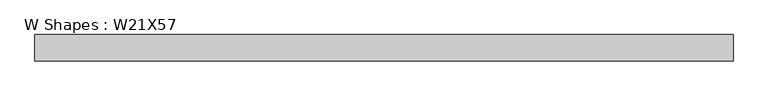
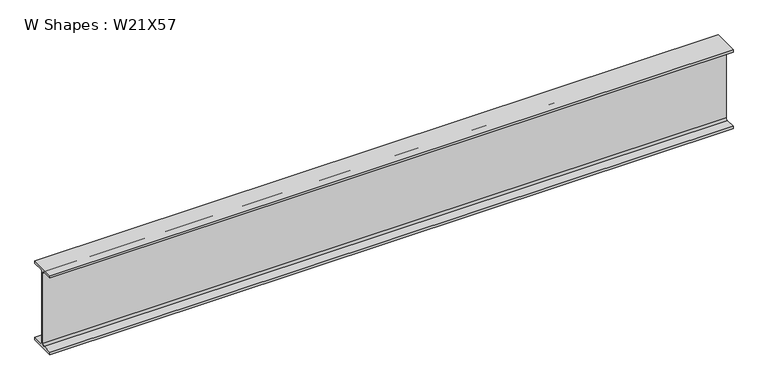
"""IFC4 building model written with IfcOpenShell, lengths in millimetres: beam geometry, W Shapes : W21X57."""

from ifc_helpers import new_model, si_unit, point, frame, frame_2d, origin, place, context, project, spatial, polyline, circle_curve, trimmed, segment, composite_curve, outline, extrude, source, transform, mapped, element, save


def w_shapes_w21x57_76d5891c(model_context):
    return source(origin(), model_context, "Body", "SweptSolid", [
        extrude(outline(composite_curve([segment(polyline([(83.312, -251.46), (83.312, -267.97), (-83.312, -267.97), (-83.312, -251.46), (-17.8435, -251.46)]), True, "CONTINUOUS"), segment(trimmed(circle_curve(frame_2d((-17.8435, -238.76)), 12.7), [point((-17.8435, -251.46))], [point((-5.1435, -238.76))], True, "CARTESIAN"), True, "CONTINUOUS"), segment(polyline([(-5.1435, -238.76), (-5.1435, 238.76)]), True, "CONTINUOUS"), segment(trimmed(circle_curve(frame_2d((-17.8435, 238.76)), 12.7), [point((-5.1435, 238.76))], [point((-17.8435, 251.46))], True, "CARTESIAN"), True, "CONTINUOUS"), segment(polyline([(-17.8435, 251.46), (-83.312, 251.46), (-83.312, 267.97), (83.312, 267.97), (83.312, 251.46), (17.8435, 251.46)]), True, "CONTINUOUS"), segment(trimmed(circle_curve(frame_2d((17.8435, 238.76)), 12.7), [point((17.8435, 251.46))], [point((5.1435, 238.76))], True, "CARTESIAN"), True, "CONTINUOUS"), segment(polyline([(5.1435, 238.76), (5.1435, -238.76)]), True, "CONTINUOUS"), segment(trimmed(circle_curve(frame_2d((17.8435, -238.76)), 12.7), [point((5.1435, -238.76))], [point((17.8435, -251.46))], True, "CARTESIAN"), True, "CONTINUOUS"), segment(polyline([(17.8435, -251.46), (83.312, -251.46)]), True, "CONTINUOUS")], self_intersect=False)), frame((-2089.8329322, 0.0, 0.0), z_axis=(1.0, 0.0, 0.0), x_axis=(0.0, 1.0, 0.0)), (0.0, 0.0, 1.0), 4381.2829322),
    ])


if __name__ == "__main__":
    model = new_model("IFC4")
    model_context = context("Model", 3, world=origin())
    ifc_project = project(units=[si_unit("LENGTHUNIT", "METRE", prefix="MILLI")], contexts=[model_context])
    site = spatial("IfcSite", under=ifc_project)
    building = spatial("IfcBuilding", under=site)
    placement = place(None, origin())
    w_shapes_w21x57_shape = w_shapes_w21x57_76d5891c(model_context)
    element("IfcBeam", 1, ObjectType="W Shapes : W21X57", at=placement, inside=building, context=model_context, shape_type="MappedRepresentation", body=[
        mapped(w_shapes_w21x57_shape, transform((0.0, 0.0, 0.0), x_axis=(1.0, 0.0, 0.0), y_axis=(0.0, 1.0, 0.0), z_axis=(0.0, 0.0, 1.0))),
    ])
    save(model, "model.ifc")
